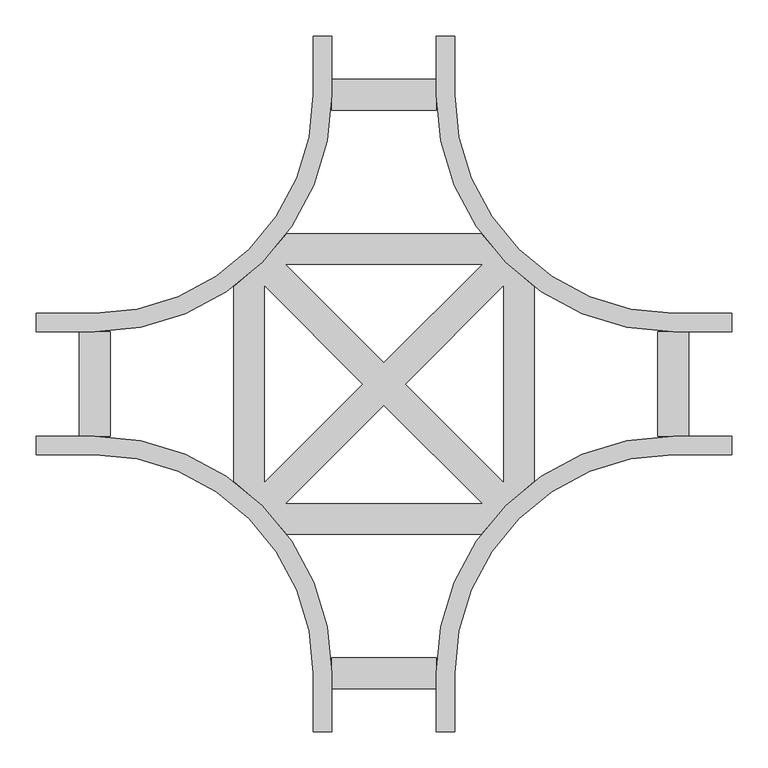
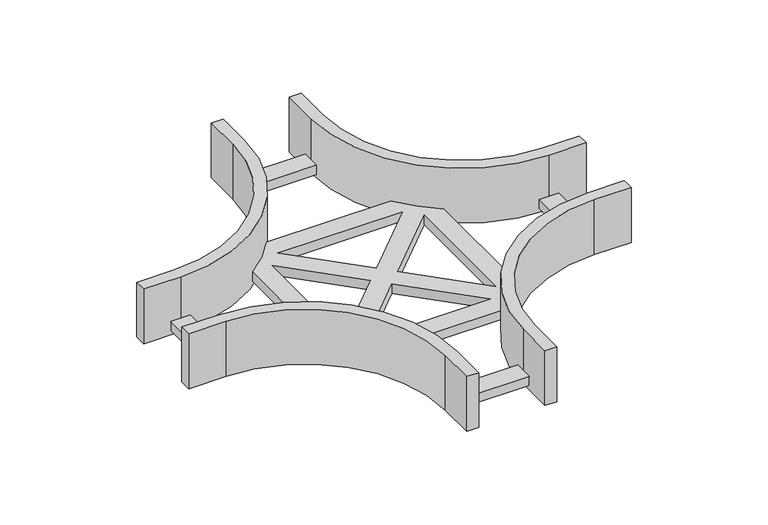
"""IFC4 building model written with IfcOpenShell, lengths in millimetres: cable carrier fitting geometry, Legrand_CableLadder_Swifts_Sapphire_Cross-300R-13 : Hot Dip Galvanised (after manufacture)."""

from ifc_helpers import new_model, si_unit, point, frame, frame_2d, origin, place, context, project, spatial, polyline, circle_curve, trimmed, segment, composite_curve, outline, extrude, source, transform, mapped, element, save


def cable_carrier_fitting_75fde7c1(model_context):
    return source(origin(), model_context, "Body", "SweptSolid", [
        extrude(outline(composite_curve([segment(trimmed(circle_curve(frame_2d((-397.0, 397.0)), 325.5), [point((-205.9, 133.502296))], [point((-133.502296, 205.9))], True, "CARTESIAN"), True, "CONTINUOUS"), segment(polyline([(-133.502296, 205.9), (133.502296, 205.9)]), True, "CONTINUOUS"), segment(trimmed(circle_curve(frame_2d((397.0, 397.0)), 325.5), [point((133.502296, 205.9))], [point((205.9, 133.502296))], True, "CARTESIAN"), True, "CONTINUOUS"), segment(polyline([(205.9, 133.502296), (205.9, -133.502296)]), True, "CONTINUOUS"), segment(trimmed(circle_curve(frame_2d((397.0, -397.0)), 325.5), [point((205.9, -133.502296))], [point((133.502296, -205.9))], True, "CARTESIAN"), True, "CONTINUOUS"), segment(polyline([(133.502296, -205.9), (-133.502296, -205.9)]), True, "CONTINUOUS"), segment(trimmed(circle_curve(frame_2d((-397.0, -397.0)), 325.5), [point((-133.502296, -205.9))], [point((-205.9, -133.502296))], True, "CARTESIAN"), True, "CONTINUOUS"), segment(polyline([(-205.9, -133.502296), (-205.9, 133.502296)]), True, "CONTINUOUS")], self_intersect=False), holes=[polyline([(-29.6984848, 0.0), (-163.9, 134.2015152), (-163.9, -134.2015152), (-29.6984848, 0.0)]), polyline([(0.0, -29.6984848), (-134.2015152, -163.9), (134.2015152, -163.9), (0.0, -29.6984848)]), polyline([(29.6984848, 0.0), (163.9, -134.2015152), (163.9, 134.2015152), (29.6984848, 0.0)]), polyline([(-134.2015152, 163.9), (0.0, 29.6984848), (134.2015152, 163.9), (-134.2015152, 163.9)])]), frame((0.0, 0.0, -52.5), z_axis=(0.0, 0.0, 1.0), x_axis=(1.0, 0.0, 0.0)), (0.0, 0.0, 1.0), 21.0),
        extrude(outline(polyline([(-71.5, 376.0), (-71.5, 418.0), (71.5, 418.0), (71.5, 376.0), (-71.5, 376.0)])), frame((0.0, 0.0, -52.5), z_axis=(0.0, 0.0, 1.0), x_axis=(1.0, 0.0, 0.0)), (0.0, 0.0, 1.0), 21.0),
        extrude(outline(polyline([(71.5, -376.0), (71.5, -418.0), (-71.5, -418.0), (-71.5, -376.0), (71.5, -376.0)])), frame((0.0, 0.0, -52.5), z_axis=(0.0, 0.0, 1.0), x_axis=(1.0, 0.0, 0.0)), (0.0, 0.0, 1.0), 21.0),
        extrude(outline(polyline([(-376.0, 71.5), (-376.0, -71.5), (-418.0, -71.5), (-418.0, 71.5), (-376.0, 71.5)])), frame((0.0, 0.0, -52.5), z_axis=(0.0, 0.0, 1.0), x_axis=(1.0, 0.0, 0.0)), (0.0, 0.0, 1.0), 21.0),
        extrude(outline(polyline([(418.0, 71.5), (418.0, -71.5), (376.0, -71.5), (376.0, 71.5), (418.0, 71.5)])), frame((0.0, 0.0, -52.5), z_axis=(0.0, 0.0, 1.0), x_axis=(1.0, 0.0, 0.0)), (0.0, 0.0, 1.0), 21.0),
        extrude(outline(composite_curve([segment(polyline([(477.0, -71.5), (477.0, -97.0), (397.0, -97.0)]), True, "CONTINUOUS"), segment(trimmed(circle_curve(frame_2d((397.0, -397.0)), 300.0), [point((397.0, -97.0))], [point((97.0, -397.0))], True, "CARTESIAN"), True, "CONTINUOUS"), segment(polyline([(97.0, -397.0), (97.0, -477.0), (71.5, -477.0), (71.5, -397.0)]), True, "CONTINUOUS"), segment(trimmed(circle_curve(frame_2d((397.0, -397.0)), 325.5), [point((71.5, -397.0))], [point((397.0, -71.5))], False, "CARTESIAN"), True, "CONTINUOUS"), segment(polyline([(397.0, -71.5), (477.0, -71.5)]), True, "CONTINUOUS")], self_intersect=False)), frame((0.0, 0.0, -62.5), z_axis=(0.0, 0.0, 1.0), x_axis=(1.0, 0.0, 0.0)), (0.0, 0.0, 1.0), 125.0),
        extrude(outline(composite_curve([segment(polyline([(-477.0, -97.0), (-477.0, -71.5), (-397.0, -71.5)]), True, "CONTINUOUS"), segment(trimmed(circle_curve(frame_2d((-397.0, -397.0)), 325.5), [point((-397.0, -71.5))], [point((-71.5, -397.0))], False, "CARTESIAN"), True, "CONTINUOUS"), segment(polyline([(-71.5, -397.0), (-71.5, -477.0), (-97.0, -477.0), (-97.0, -397.0)]), True, "CONTINUOUS"), segment(trimmed(circle_curve(frame_2d((-397.0, -397.0)), 300.0), [point((-97.0, -397.0))], [point((-397.0, -97.0))], True, "CARTESIAN"), True, "CONTINUOUS"), segment(polyline([(-397.0, -97.0), (-477.0, -97.0)]), True, "CONTINUOUS")], self_intersect=False)), frame((0.0, 0.0, -62.5), z_axis=(0.0, 0.0, 1.0), x_axis=(1.0, 0.0, 0.0)), (0.0, 0.0, 1.0), 125.0),
        extrude(outline(composite_curve([segment(polyline([(-477.0, 71.5), (-477.0, 97.0), (-397.0, 97.0)]), True, "CONTINUOUS"), segment(trimmed(circle_curve(frame_2d((-397.0, 397.0)), 300.0), [point((-397.0, 97.0))], [point((-97.0, 397.0))], True, "CARTESIAN"), True, "CONTINUOUS"), segment(polyline([(-97.0, 397.0), (-97.0, 477.0), (-71.5, 477.0), (-71.5, 397.0)]), True, "CONTINUOUS"), segment(trimmed(circle_curve(frame_2d((-397.0, 397.0)), 325.5), [point((-71.5, 397.0))], [point((-397.0, 71.5))], False, "CARTESIAN"), True, "CONTINUOUS"), segment(polyline([(-397.0, 71.5), (-477.0, 71.5)]), True, "CONTINUOUS")], self_intersect=False)), frame((0.0, 0.0, -62.5), z_axis=(0.0, 0.0, 1.0), x_axis=(1.0, 0.0, 0.0)), (0.0, 0.0, 1.0), 125.0),
        extrude(outline(composite_curve([segment(polyline([(477.0, 97.0), (477.0, 71.5), (397.0, 71.5)]), True, "CONTINUOUS"), segment(trimmed(circle_curve(frame_2d((397.0, 397.0)), 325.5), [point((397.0, 71.5))], [point((71.5, 397.0))], False, "CARTESIAN"), True, "CONTINUOUS"), segment(polyline([(71.5, 397.0), (71.5, 477.0), (97.0, 477.0), (97.0, 397.0)]), True, "CONTINUOUS"), segment(trimmed(circle_curve(frame_2d((397.0, 397.0)), 300.0), [point((97.0, 397.0))], [point((397.0, 97.0))], True, "CARTESIAN"), True, "CONTINUOUS"), segment(polyline([(397.0, 97.0), (477.0, 97.0)]), True, "CONTINUOUS")], self_intersect=False)), frame((0.0, 0.0, -62.5), z_axis=(0.0, 0.0, 1.0), x_axis=(1.0, 0.0, 0.0)), (0.0, 0.0, 1.0), 125.0),
    ])


if __name__ == "__main__":
    model = new_model("IFC4")
    model_context = context("Model", 3, world=origin())
    ifc_project = project(units=[si_unit("LENGTHUNIT", "METRE", prefix="MILLI")], contexts=[model_context])
    site = spatial("IfcSite", under=ifc_project)
    building = spatial("IfcBuilding", under=site)
    placement = place(None, origin())
    cable_carrier_fitting_shape = cable_carrier_fitting_75fde7c1(model_context)
    element("IfcCableCarrierFitting", 1, ObjectType="Legrand_CableLadder_Swifts_Sapphire_Cross-300R-13 : Hot Dip Galvanised (after manufacture)", at=placement, inside=building, context=model_context, shape_type="MappedRepresentation", body=[
        mapped(cable_carrier_fitting_shape, transform((0.0, 0.0, 0.0), x_axis=(1.0, 0.0, 0.0), y_axis=(0.0, 1.0, 0.0), z_axis=(0.0, 0.0, 1.0))),
    ])
    save(model, "model.ifc")
